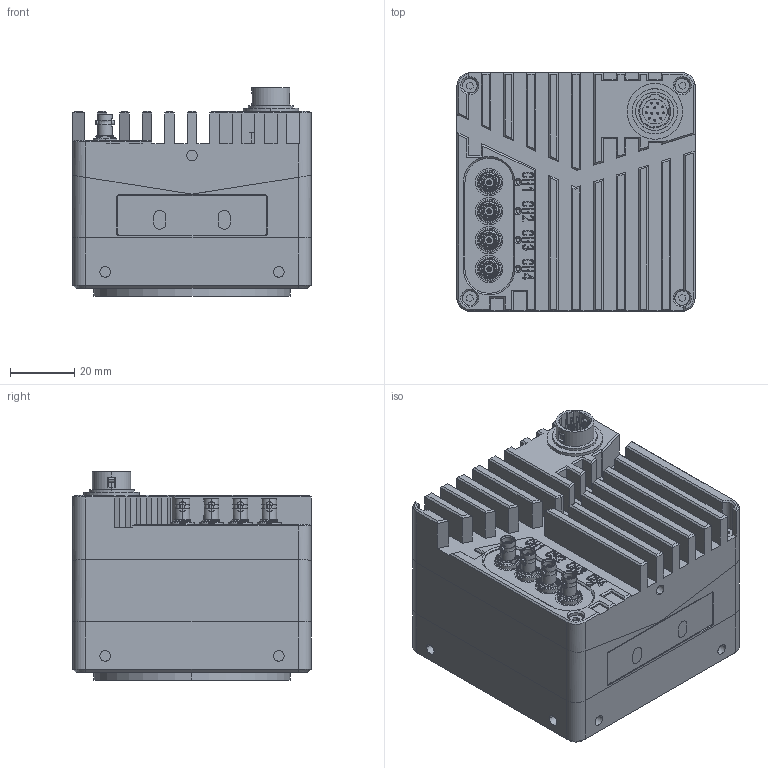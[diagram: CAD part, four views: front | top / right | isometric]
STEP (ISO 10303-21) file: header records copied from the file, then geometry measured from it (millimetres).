
FILE_DESCRIPTION (( 'STEP AP203' ), '1' );
FILE_NAME ('mars_hs_cxp_74_74_11.48_m58_wz_user_s1.0.3.STEP', '2023-09-14T03:01:23', ( '' ), ( '' ), 'SwSTEP 2.0', 'SolidWorks 2016', '' );
FILE_SCHEMA (( 'CONFIG_CONTROL_DESIGN' ));
Length unit declared in the file: millimetre
Products named in the file (1): mars_hs_cxp_74_74_11.48_m58_wz_user_s1.0.3
Bounding box: 74 x 74 x 64.7 mm (x, y, z)
Volume: 205366.8 mm3; surface area: 90035 mm2
Topology: 53 solids, 68 shells, 2902 faces, 7438 edges, 4882 vertices
Faces by surface type: plane 1608, cylinder 849, bspline 311, cone 130, torus 4
Entity records: 147893 total; most frequent: CARTESIAN_POINT 79482, ORIENTED_EDGE 14868, DIRECTION 12878, EDGE_CURVE 7434, VERTEX_POINT 4878, VECTOR 4656, LINE 4656, AXIS2_PLACEMENT_3D 4111
